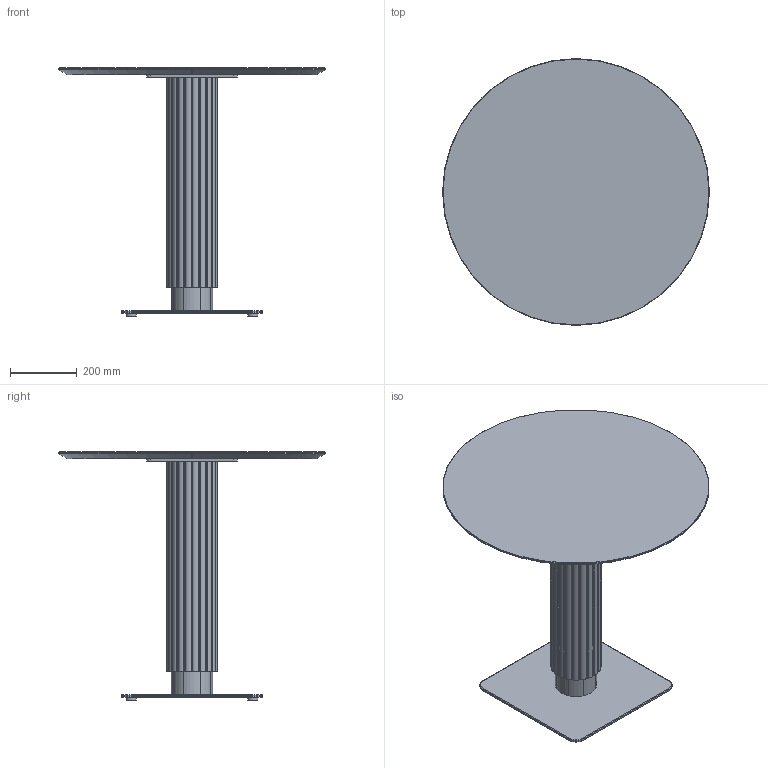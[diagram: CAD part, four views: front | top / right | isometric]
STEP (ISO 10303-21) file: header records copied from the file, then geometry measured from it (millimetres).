
FILE_DESCRIPTION( ('This file contains a STEP AP42 implementation' ,'as created by ZW3D STEP Interface translator.') ,'2;1' );
FILE_NAME( 'Godron - B_Carré - F1 - M5 - 800 x 800 x 750.stp' ,'24 912. 95018', (''), ('ZWCAD Software Co.'), 'Version 1.0', 'ZW3D to STEP translator', '' );
FILE_SCHEMA(('AUTOMOTIVE_DESIGN { 1 0 10303 214 1 1 1 1 }'));
Length unit declared in the file: millimetre
Products named in the file (15): 0; PIED BISTROT PARAMETRIQUE_; CROIX ACIER 370 V.02_; CRX-X370-02_; SOCLE ACIER L 425x425 V.02_; SCL-R425-02_; PLA-R30A-01_; PLA-R30A-01; COLONNE ACIER Ø48.5 V.02_; TUB-D048-02_; PLA-R48A-01_; Colonne GODRON H700_; WUERTH 0276063020 Euro-screw 6.3x2 Verzinkt_; PLATEAU BISTROT PARAMETRIQUE_; insert_m6_13_
Assembly tree (23 placements, depth 3):
  0
  PIED BISTROT PARAMETRIQUE_
    CROIX ACIER 370 V.02_
      CRX-X370-02_
    SOCLE ACIER L 425x425 V.02_
      SCL-R425-02_
      PLA-R30A-01_
      PLA-R30A-01  x3
    COLONNE ACIER Ø48.5 V.02_
      TUB-D048-02_
      PLA-R48A-01_  x2
    Colonne GODRON H700_
    WUERTH 0276063020 Euro-screw 6.3x2 Verzinkt_
    PLATEAU BISTROT PARAMETRIQUE_
      insert_m6_13_  x8
Bounding box: 800 x 800 x 744 mm (x, y, z)
Volume: 22073611.5 mm3; surface area: 2814272.3 mm2
Topology: 27 solids, 27 shells, 669 faces, 1662 edges, 1062 vertices
Faces by surface type: plane 302, cylinder 192, bspline 121, cone 53, torus 1
Full cylindrical faces by diameter (mm): 4.88 x1, 6 x8, 6.3 x1, 8 x45, 12 x2, 14 x2, 30 x4, 44.5 x3, 48.5 x1
Entity records: 16810 total; most frequent: CARTESIAN_POINT 4133, DIRECTION 2344, ORIENTED_EDGE 2338, EDGE_CURVE 1169, AXIS2_PLACEMENT_3D 829, VERTEX_POINT 756, VECTOR 686, LINE 686
